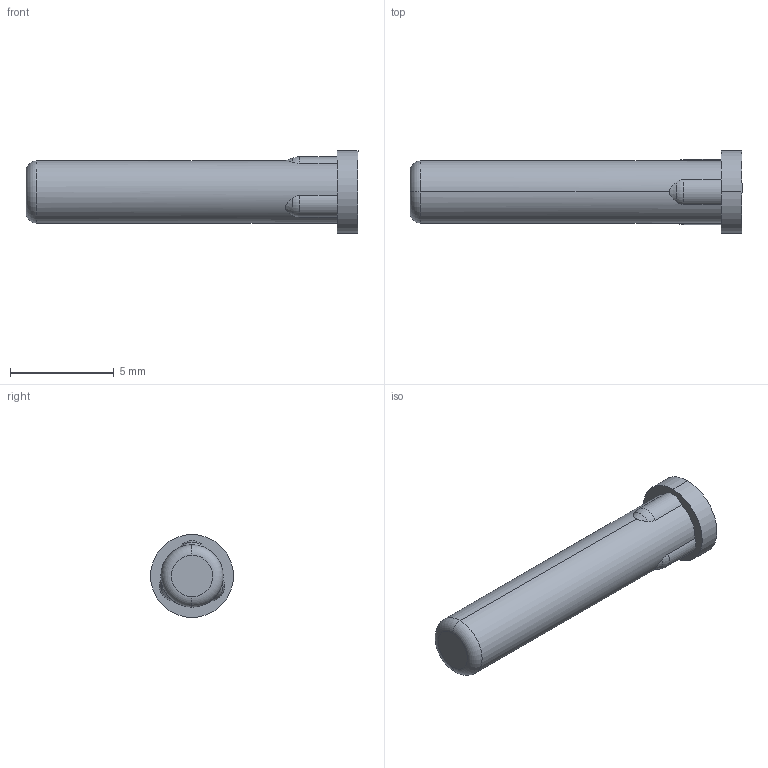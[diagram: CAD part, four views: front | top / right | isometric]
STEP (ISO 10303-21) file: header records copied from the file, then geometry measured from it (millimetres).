
FILE_DESCRIPTION(('Creo Elements/Direct Modeling STEP Export'),'2;1');
FILE_NAME('H20-0021-CL901-00_BB-30S.stp','2021-09-07T 8:56:58',(''),(''),'Creo Elements/Direct Modeling STEP processor for AP214 (Solid Model)','Creo Elements/Direct Modeling 20.3B 05-Dec-2020 (C) Parametric Technology GmbH','');
FILE_SCHEMA(('AUTOMOTIVE_DESIGN { 1 0 10303 214 1 1 1 1 }'));
Length unit declared in the file: millimetre
Products named in the file (2): BB-030S
Assembly tree (1 placements, depth 2):
  BB-030S
    BB-030S
Bounding box: 16 x 4 x 4 mm (x, y, z)
Volume: 119.3 mm3; surface area: 177.7 mm2
Topology: 1 solids, 1 shells, 19 faces, 99 edges, 84 vertices
Faces by surface type: cylinder 7, torus 5, plane 4, cone 3
Entity records: 1194 total; most frequent: CARTESIAN_POINT 346, ORIENTED_EDGE 198, DIRECTION 139, EDGE_CURVE 99, VERTEX_POINT 84, VECTOR 65, LINE 65, AXIS2_PLACEMENT_3D 37
